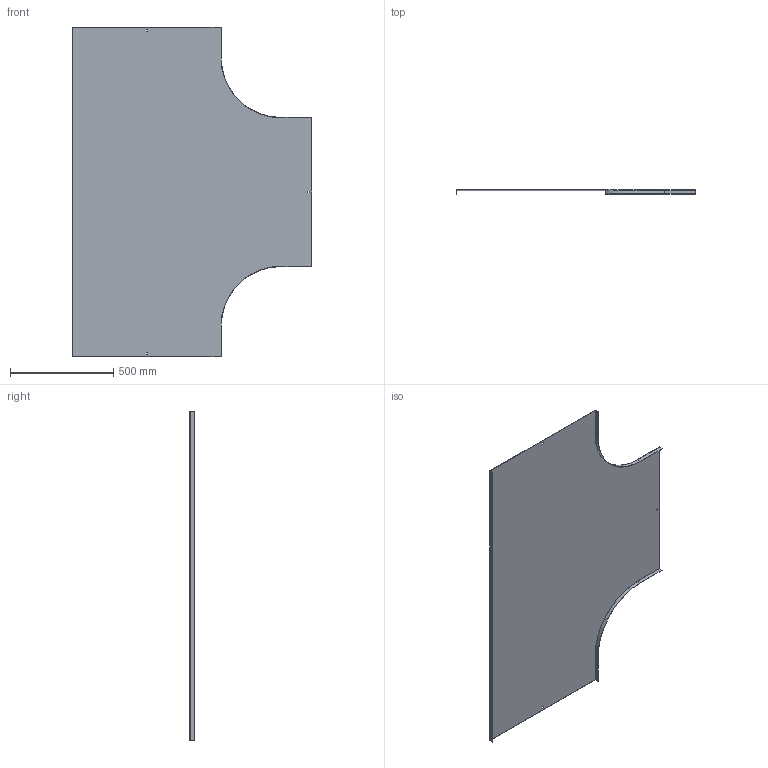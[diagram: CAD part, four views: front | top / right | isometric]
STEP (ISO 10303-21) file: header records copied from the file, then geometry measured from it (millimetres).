
FILE_DESCRIPTION (( 'STEP AP214' ), '1' );
FILE_NAME ('15N3P700.step', '2025-02-21T13:55:56', ( '' ), ( '' ), 'SwSTEP 2.0', 'SolidWorks 2023', '' );
FILE_SCHEMA (( 'AUTOMOTIVE_DESIGN' ));
Length unit declared in the file: millimetre
Products named in the file (1): 15N3P700
Bounding box: 1161.5 x 20 x 1600 mm (x, y, z)
Volume: 2350342 mm3; surface area: 3142008.3 mm2
Topology: 1 solids, 1 shells, 34 faces, 96 edges, 64 vertices
Faces by surface type: plane 30, cylinder 4
Entity records: 1123 total; most frequent: CARTESIAN_POINT 195, ORIENTED_EDGE 192, DIRECTION 174, EDGE_CURVE 96, LINE 88, VECTOR 88, VERTEX_POINT 64, AXIS2_PLACEMENT_3D 43
